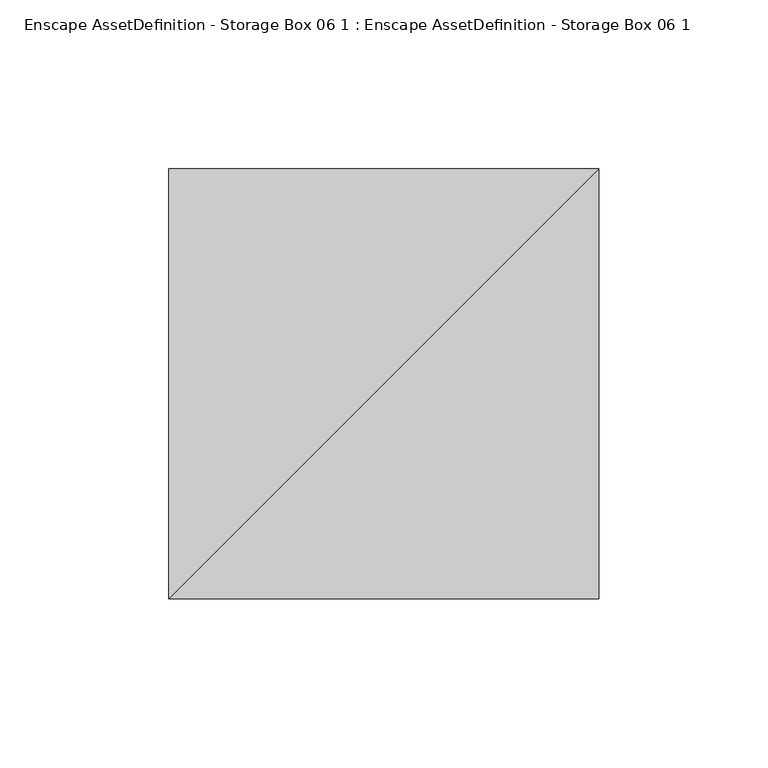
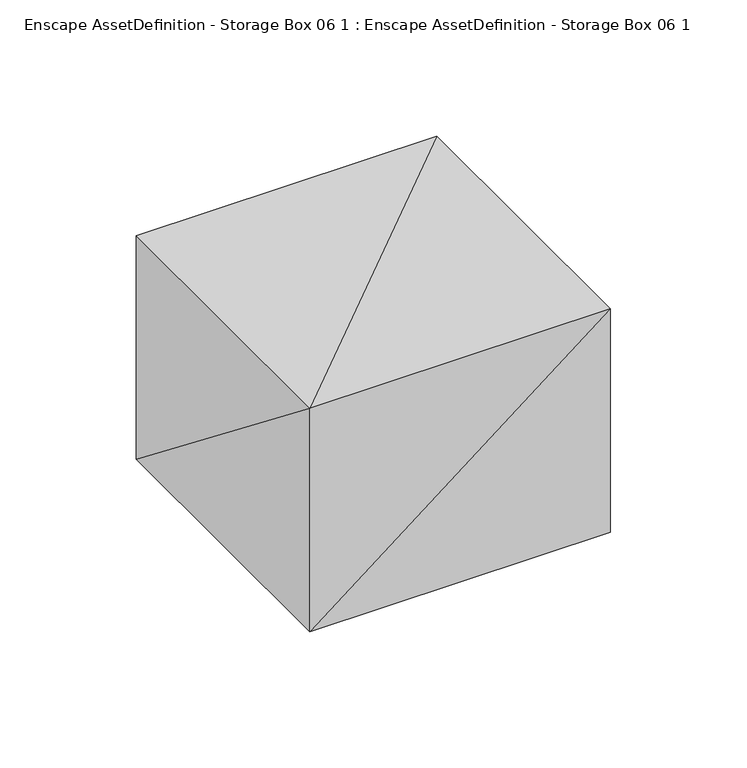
"""IFC4 building model written with IfcOpenShell, lengths in millimetres: geographic element geometry, Enscape AssetDefinition - Storage Box 06 1 : Enscape AssetDefinition - Storage Box 06 1."""

from ifc_helpers import new_model, si_unit, origin, place, context, project, spatial, faceted_brep, source, transform, mapped, element, save


def enscape_assetdefinition_storage_box_06_1_enscape_998c8187(model_context):
    return source(origin(), model_context, "Body", "Brep", [
        faceted_brep([(63.6324212, -63.6324286, 0.0), (-63.6324212, -63.6324286, 0.0), (63.6324212, 63.6324137, 0.0), (-63.6324212, 63.6324063, 100.0000164), (-63.6324212, -63.6324361, 100.0000015), (63.6324212, 63.6324063, 100.0000164), (63.6324212, -63.6324286, 100.0000015), (-63.6324212, 63.6324063, 0.0)], [[[0, 1, 2]], [[3, 4, 5]], [[4, 1, 6]], [[6, 0, 5]], [[5, 2, 3]], [[3, 7, 4]], [[3, 2, 7]], [[2, 1, 7]], [[5, 4, 6]], [[6, 1, 0]], [[5, 0, 2]], [[4, 7, 1]]]),
    ])


if __name__ == "__main__":
    model = new_model("IFC4")
    model_context = context("Model", 3, world=origin())
    ifc_project = project(units=[si_unit("LENGTHUNIT", "METRE", prefix="MILLI")], contexts=[model_context])
    site = spatial("IfcSite", under=ifc_project)
    building = spatial("IfcBuilding", under=site)
    placement = place(None, origin())
    enscape_assetdefinition_storage_box_06_1_enscape_shape = enscape_assetdefinition_storage_box_06_1_enscape_998c8187(model_context)
    element("IfcGeographicElement", 1, ObjectType="Enscape AssetDefinition - Storage Box 06 1 : Enscape AssetDefinition - Storage Box 06 1", at=placement, inside=building, context=model_context, shape_type="MappedRepresentation", body=[
        mapped(enscape_assetdefinition_storage_box_06_1_enscape_shape, transform((0.0, 0.0, 0.0), x_axis=(1.0, 0.0, 0.0), y_axis=(0.0, 1.0, 0.0), z_axis=(0.0, 0.0, 1.0))),
    ])
    save(model, "model.ifc")
